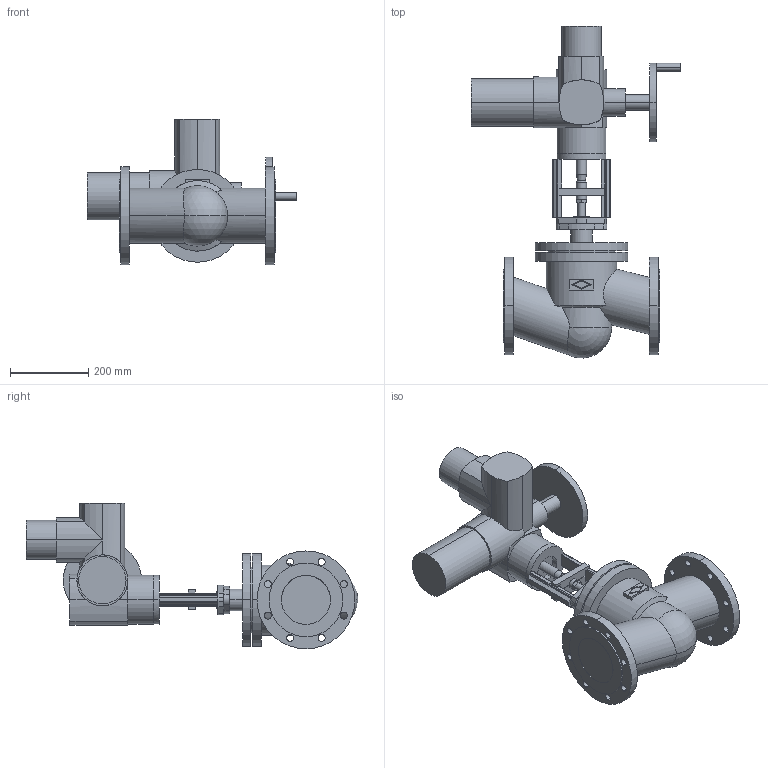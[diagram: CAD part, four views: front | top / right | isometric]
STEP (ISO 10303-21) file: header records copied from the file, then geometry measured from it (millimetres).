
FILE_DESCRIPTION(('OneSpaceDesigner STEP Export'),'2;1');
FILE_NAME('c000003093.stp','2007-01-09T10:47:38',(''),(''),'OneSpace Designer STEP processor for AP214 (Solid Model)','OneSpace Designer 14.00B 27-May-2006 (C) CoCreate Software GmbH','');
FILE_SCHEMA(('AUTOMOTIVE_DESIGN { 1 0 10303 214 1 1 1 1 }'));
Length unit declared in the file: millimetre
Products named in the file (3): 1; 2; 3
Bounding box: 536 x 847.9 x 372 mm (x, y, z)
Volume: 23330370.7 mm3; surface area: 1110995.2 mm2
Topology: 3 solids, 3 shells, 284 faces, 718 edges, 454 vertices
Faces by surface type: cylinder 148, plane 128, cone 6, sphere 2
Entity records: 8304 total; most frequent: CARTESIAN_POINT 1901, ORIENTED_EDGE 1432, DIRECTION 1179, EDGE_CURVE 716, VERTEX_POINT 454, AXIS2_PLACEMENT_3D 405, VECTOR 369, LINE 369
